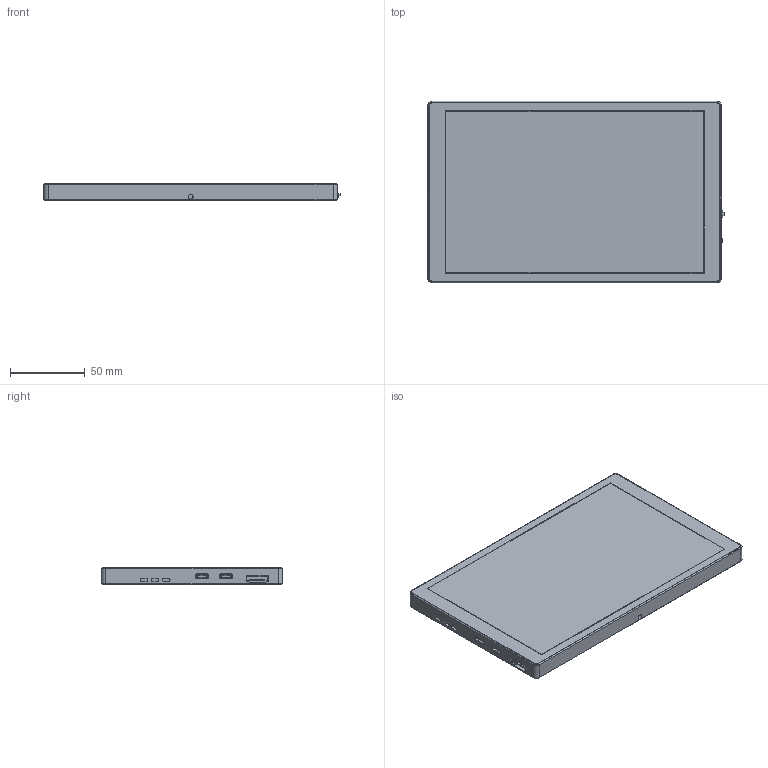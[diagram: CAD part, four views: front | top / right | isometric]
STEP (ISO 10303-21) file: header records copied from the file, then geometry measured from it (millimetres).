
FILE_DESCRIPTION((''),'2;1');
FILE_NAME('8HP-CAPLCD-MONITOR','2026-06-27T15:02:16',('ag'),(''),'CREO PARAMETRIC BY PTC INC, 2021063','CREO PARAMETRIC BY PTC INC, 2021063','');
FILE_SCHEMA(('CONFIG_CONTROL_DESIGN','SHAPE_APPEARANCE_LAYERS_GROUPS'));
Length unit declared in the file: millimetre
Products named in the file (1): 8HP-CAPLCD-MONITOR
Bounding box: 197.8 x 121 x 11.6 mm (x, y, z)
Volume: 273128.1 mm3; surface area: 57568.3 mm2
Topology: 1 solids, 1 shells, 268 faces, 678 edges, 446 vertices
Faces by surface type: plane 146, cylinder 112, cone 8, torus 2
Entity records: 8193 total; most frequent: DIRECTION 1446, CARTESIAN_POINT 1418, ORIENTED_EDGE 1356, EDGE_CURVE 678, AXIS2_PLACEMENT_3D 504, VERTEX_POINT 446, VECTOR 438, LINE 438
